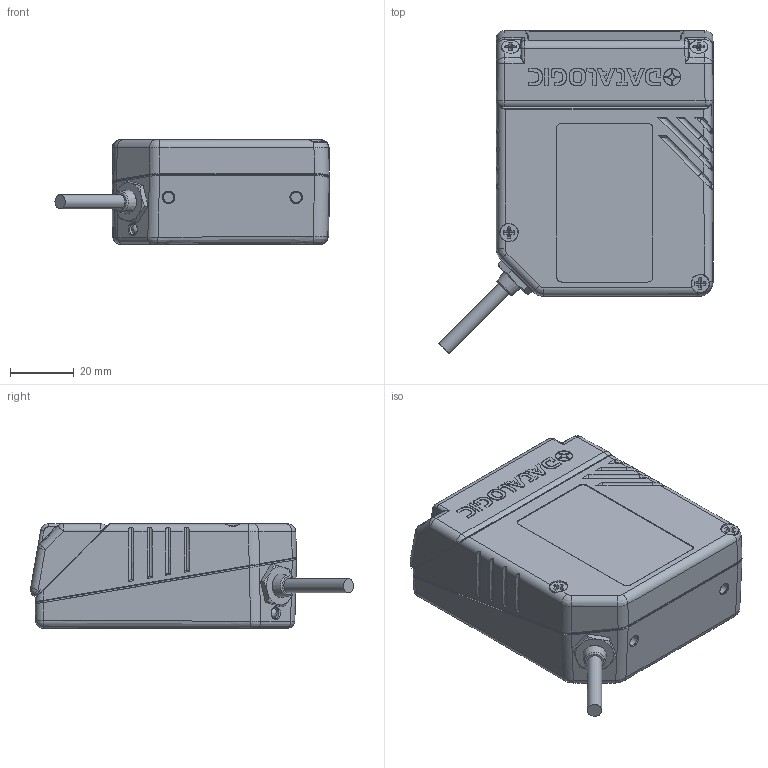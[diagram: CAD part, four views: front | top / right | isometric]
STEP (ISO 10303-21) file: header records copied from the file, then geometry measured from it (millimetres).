
FILE_DESCRIPTION(/* description */ (''),/* implementation_level */ '2;1');
FILE_NAME(/* name */ 'DSD-368.stp',/* time_stamp */ '2014-05-21T11:18:49+02:00',/* author */ (''),/* organization */ (''),/* preprocessor_version */ 'ST-DEVELOPER v11',/* originating_system */ 'SIEMENS PLM Software NX 7.5',/* authorisation */ '');
FILE_SCHEMA (('CONFIG_CONTROL_DESIGN'));
Products named in the file (1): sciaF945x2bu
Bounding box: 85.96 x 101.35 x 32.91 mm (x, y, z)
Volume: 30265.2 mm3; surface area: 48986.9 mm2
Topology: 103 solids, 109 shells, 3985 faces, 10314 edges, 6509 vertices
Faces by surface type: plane 2530, cylinder 620, bspline 425, extrusion 164, cone 130, sphere 67, torus 49
Full cylindrical faces by diameter (mm): 1 x10, 2.1 x2, 2.2 x2, 2.4 x2, 2.5 x1, 2.6 x2, 3 x4, 3.2 x6, 3.3 x2, 3.5 x5, 4.5 x2, 5.5 x2, 5.6 x2, 5.8 x3, 9.3 x1, 9.5 x1, 11 x1, 13.8 x1, 14 x2, 15 x1
Entity records: 133886 total; most frequent: CARTESIAN_POINT 46590, ORIENTED_EDGE 20422, DIRECTION 14280, EDGE_CURVE 10219, VERTEX_POINT 6507, VECTOR 5728, LINE 5564, AXIS2_PLACEMENT_3D 4276
